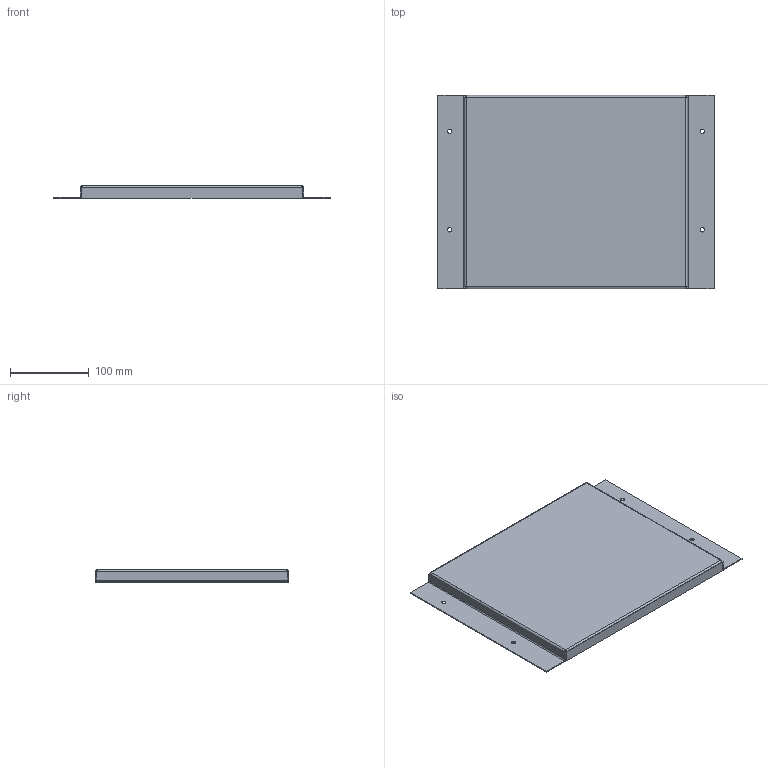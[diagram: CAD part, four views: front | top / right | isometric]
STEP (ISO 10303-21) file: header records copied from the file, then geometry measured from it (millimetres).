
FILE_DESCRIPTION (( 'STEP AP203' ), '1' );
FILE_NAME ('MB 25.35 Ïàíåëü ìîäóëüíàÿ.STEP', '2012-12-05T08:01:19', ( 'Àëåêñàíäð' ), ( 'Ïðîâåíòî' ), 'SwSTEP 2.0', 'SolidWorks 2012', '' );
FILE_SCHEMA (( 'CONFIG_CONTROL_DESIGN' ));
Length unit declared in the file: millimetre
Products named in the file (1): MB 25.35 Ïàíåëü ìîäóëüíàÿ
Bounding box: 350.6 x 245 x 15.6 mm (x, y, z)
Volume: 119650.6 mm3; surface area: 201089.8 mm2
Topology: 1 solids, 1 shells, 70 faces, 156 edges, 88 vertices
Faces by surface type: plane 50, cylinder 20
Entity records: 1969 total; most frequent: DIRECTION 338, CARTESIAN_POINT 315, ORIENTED_EDGE 312, EDGE_CURVE 156, LINE 116, VECTOR 116, AXIS2_PLACEMENT_3D 111, VERTEX_POINT 88
